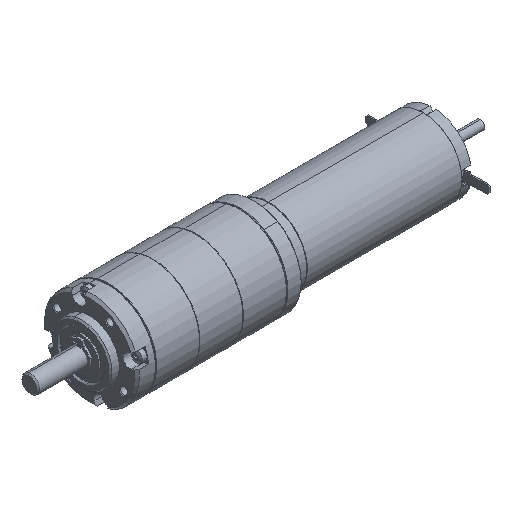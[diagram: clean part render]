
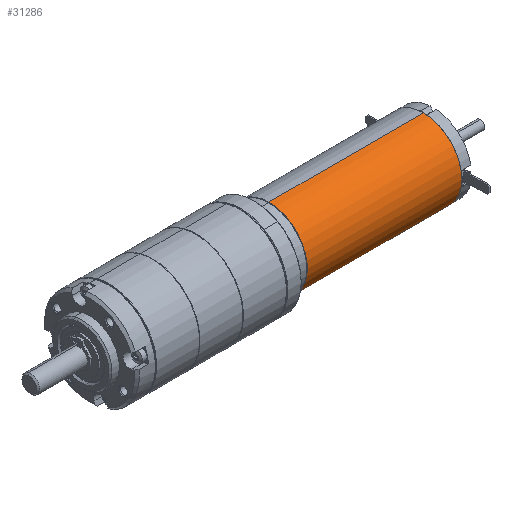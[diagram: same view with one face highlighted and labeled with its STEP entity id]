
A CAD part, isometric view. The second image highlights one B-rep face of the part: STEP entity #31286.
In plain terms, the highlighted cylindrical face has radius 13 mm (diameter 26 mm), a partial arc.
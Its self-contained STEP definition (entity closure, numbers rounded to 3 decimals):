
#607 = CIRCLE ( 'NONE', #23186, 13. ) ;
#4247 = DIRECTION ( 'NONE',  ( 1., 0., 0. ) ) ;
#5348 = VECTOR ( 'NONE', #55572, 1000. ) ;
#5784 = VERTEX_POINT ( 'NONE', #54901 ) ;
#11992 = VERTEX_POINT ( 'NONE', #26738 ) ;
#20680 = ORIENTED_EDGE ( 'NONE', *, *, #40937, .T. ) ;
#20720 = CARTESIAN_POINT ( 'NONE',  ( 30.9, 0., -13. ) ) ;
#21985 = AXIS2_PLACEMENT_3D ( 'NONE', #46749, #4247, #53973 ) ;
#22226 = EDGE_CURVE ( 'NONE', #5784, #33600, #607, .T. ) ;
#23186 = AXIS2_PLACEMENT_3D ( 'NONE', #83739, #40924, #90963 ) ;
#24747 = ORIENTED_EDGE ( 'NONE', *, *, #22226, .T. ) ;
#26738 = CARTESIAN_POINT ( 'NONE',  ( 4.8, 0., 13. ) ) ;
#28742 = CIRCLE ( 'NONE', #21985, 13. ) ;
#29232 = CYLINDRICAL_SURFACE ( 'NONE', #91077, 13. ) ;
#31286 = ADVANCED_FACE ( 'NONE', ( #54885 ), #29232, .T. ) ;
#32374 = CARTESIAN_POINT ( 'NONE',  ( 4.8, 0., -13. ) ) ;
#33600 = VERTEX_POINT ( 'NONE', #37950 ) ;
#37262 = CARTESIAN_POINT ( 'NONE',  ( 30.9, 0., 13. ) ) ;
#37950 = CARTESIAN_POINT ( 'NONE',  ( 57., 0., 13. ) ) ;
#40924 = DIRECTION ( 'NONE',  ( -1., 0., 0. ) ) ;
#40937 = EDGE_CURVE ( 'NONE', #11992, #60994, #28742, .T. ) ;
#41805 = EDGE_CURVE ( 'NONE', #33600, #11992, #92052, .T. ) ;
#42903 = ORIENTED_EDGE ( 'NONE', *, *, #41805, .T. ) ;
#46749 = CARTESIAN_POINT ( 'NONE',  ( 4.8, 0., 0. ) ) ;
#53973 = DIRECTION ( 'NONE',  ( 0., 0., 1. ) ) ;
#54885 = FACE_OUTER_BOUND ( 'NONE', #73996, .T. ) ;
#54901 = CARTESIAN_POINT ( 'NONE',  ( 57., 0., -13. ) ) ;
#55572 = DIRECTION ( 'NONE',  ( -1., 0., 0. ) ) ;
#60819 = DIRECTION ( 'NONE',  ( 0., 0., 1. ) ) ;
#60994 = VERTEX_POINT ( 'NONE', #32374 ) ;
#68615 = VECTOR ( 'NONE', #73190, 1000. ) ;
#73190 = DIRECTION ( 'NONE',  ( -1., 0., 0. ) ) ;
#73996 = EDGE_LOOP ( 'NONE', ( #74685, #24747, #42903, #20680 ) ) ;
#74685 = ORIENTED_EDGE ( 'NONE', *, *, #77544, .F. ) ;
#74841 = CARTESIAN_POINT ( 'NONE',  ( 30.9, 0., 0. ) ) ;
#77544 = EDGE_CURVE ( 'NONE', #5784, #60994, #81189, .T. ) ;
#81189 = LINE ( 'NONE', #20720, #5348 ) ;
#82049 = DIRECTION ( 'NONE',  ( -1., 0., 0. ) ) ;
#83739 = CARTESIAN_POINT ( 'NONE',  ( 57., 0., 0. ) ) ;
#90963 = DIRECTION ( 'NONE',  ( 0., 0., 1. ) ) ;
#91077 = AXIS2_PLACEMENT_3D ( 'NONE', #74841, #82049, #60819 ) ;
#92052 = LINE ( 'NONE', #37262, #68615 ) ;
